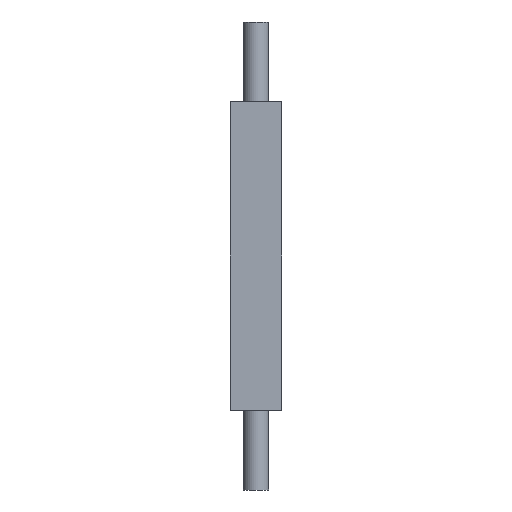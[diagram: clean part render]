
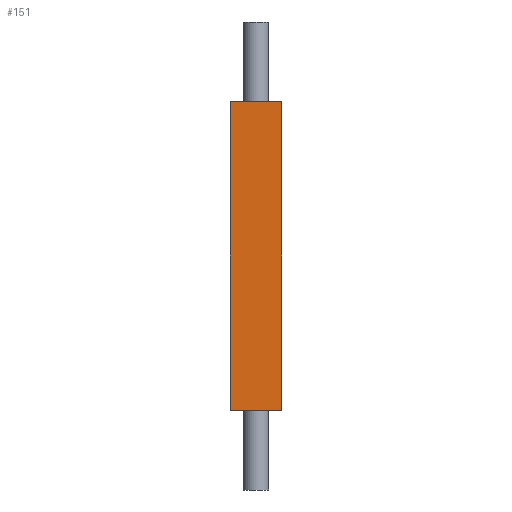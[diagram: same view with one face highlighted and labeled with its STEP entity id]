
A CAD part, front view. The second image highlights one B-rep face of the part: STEP entity #151.
In plain terms, the highlighted planar face has unit normal (0, -1, 0) as drawn and (0, 0, 1) by its records, which use the part's own axes.
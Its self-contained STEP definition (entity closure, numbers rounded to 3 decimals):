
#7 = EDGE_LOOP ( 'NONE', ( #494, #449, #276, #433 ) ) ;
#22 = VERTEX_POINT ( 'NONE', #333 ) ;
#34 = VERTEX_POINT ( 'NONE', #450 ) ;
#39 = VECTOR ( 'NONE', #251, 1000. ) ;
#55 = VERTEX_POINT ( 'NONE', #530 ) ;
#63 = VERTEX_POINT ( 'NONE', #152 ) ;
#98 = VECTOR ( 'NONE', #295, 1000. ) ;
#109 = CARTESIAN_POINT ( 'NONE',  ( -10., 120., 10. ) ) ;
#149 = CARTESIAN_POINT ( 'NONE',  ( 10., 120., 10. ) ) ;
#151 = ADVANCED_FACE ( 'NONE', ( #214 ), #247, .T. ) ;
#152 = CARTESIAN_POINT ( 'NONE',  ( -10., 120., 10. ) ) ;
#166 = LINE ( 'NONE', #422, #353 ) ;
#202 = DIRECTION ( 'NONE',  ( 0., 0., 1. ) ) ;
#214 = FACE_OUTER_BOUND ( 'NONE', #7, .T. ) ;
#218 = EDGE_CURVE ( 'NONE', #63, #55, #367, .T. ) ;
#247 = PLANE ( 'NONE',  #293 ) ;
#251 = DIRECTION ( 'NONE',  ( 0., -1., 0. ) ) ;
#255 = CARTESIAN_POINT ( 'NONE',  ( 10., 0., 10. ) ) ;
#258 = DIRECTION ( 'NONE',  ( 0., -1., 0. ) ) ;
#273 = EDGE_CURVE ( 'NONE', #34, #55, #312, .T. ) ;
#276 = ORIENTED_EDGE ( 'NONE', *, *, #336, .T. ) ;
#293 = AXIS2_PLACEMENT_3D ( 'NONE', #149, #202, #371 ) ;
#295 = DIRECTION ( 'NONE',  ( -1., 0., 0. ) ) ;
#312 = LINE ( 'NONE', #255, #98 ) ;
#331 = EDGE_CURVE ( 'NONE', #22, #34, #524, .T. ) ;
#333 = CARTESIAN_POINT ( 'NONE',  ( 10., 120., 10. ) ) ;
#336 = EDGE_CURVE ( 'NONE', #22, #63, #166, .T. ) ;
#343 = DIRECTION ( 'NONE',  ( -1., 0., 0. ) ) ;
#353 = VECTOR ( 'NONE', #343, 1000. ) ;
#367 = LINE ( 'NONE', #109, #39 ) ;
#371 = DIRECTION ( 'NONE',  ( 1., 0., 0. ) ) ;
#419 = VECTOR ( 'NONE', #258, 1000. ) ;
#422 = CARTESIAN_POINT ( 'NONE',  ( 10., 120., 10. ) ) ;
#433 = ORIENTED_EDGE ( 'NONE', *, *, #218, .T. ) ;
#449 = ORIENTED_EDGE ( 'NONE', *, *, #331, .F. ) ;
#450 = CARTESIAN_POINT ( 'NONE',  ( 10., 0., 10. ) ) ;
#494 = ORIENTED_EDGE ( 'NONE', *, *, #273, .F. ) ;
#506 = CARTESIAN_POINT ( 'NONE',  ( 10., 120., 10. ) ) ;
#524 = LINE ( 'NONE', #506, #419 ) ;
#530 = CARTESIAN_POINT ( 'NONE',  ( -10., 0., 10. ) ) ;
